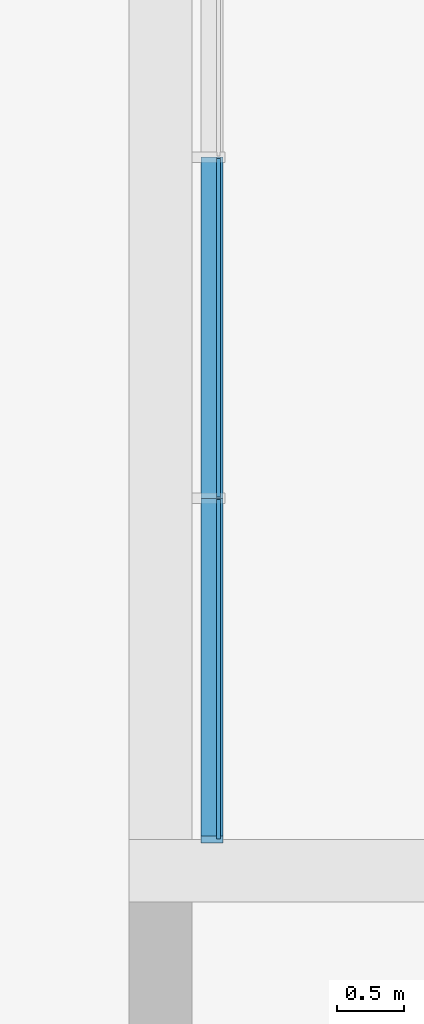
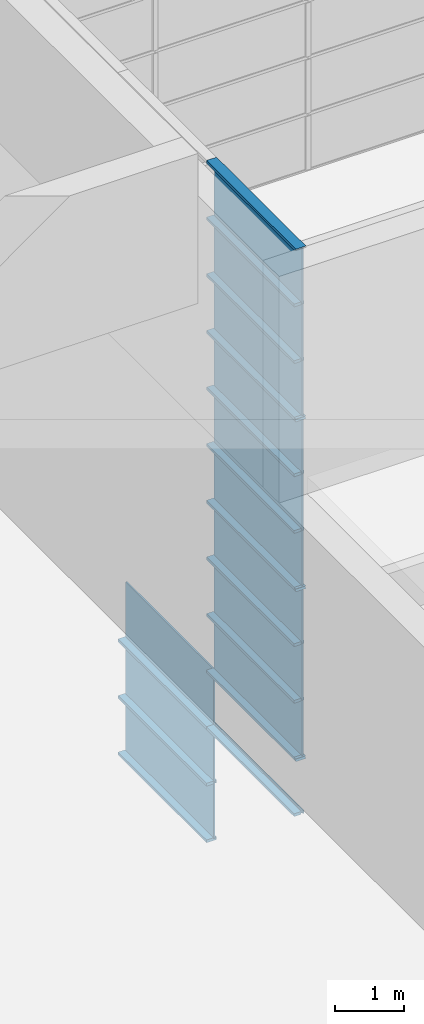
# One storey, part 24 of 105: 29 building element parts, 4 elements without a shape of their own.
"""IFC4 building model written with IfcOpenShell, lengths in millimetres."""

from ifc_helpers import new_model, entity, si_unit, converted_unit, derived_unit, direction, frame, origin_with_axes, place, context, subcontext, project, spatial, triangles, material, element, aggregate, save


model = new_model("IFC4")

# Units and contexts
model_context = context("Model", 3, precision=1e-05, world=origin_with_axes(), true_north=direction((0.0, 1.0)))
body_context = subcontext(model_context, "Body", "Model", "MODEL_VIEW")
ifc_project = project(units=[si_unit("LENGTHUNIT", "METRE", prefix="MILLI"), si_unit("AREAUNIT", "SQUARE_METRE"), si_unit("VOLUMEUNIT", "CUBIC_METRE"), converted_unit("PLANEANGLEUNIT", "DEGREE", entity("IfcLengthMeasure", 0.017453), si_unit("PLANEANGLEUNIT", "RADIAN"), dimensions=[0, 0, 0, 0, 0, 0, 0]), si_unit("SOLIDANGLEUNIT", "STERADIAN"), si_unit("MASSUNIT", "GRAM"), si_unit("TIMEUNIT", "SECOND"), si_unit("THERMODYNAMICTEMPERATUREUNIT", "DEGREE_CELSIUS"), si_unit("LUMINOUSINTENSITYUNIT", "LUMEN"), si_unit("POWERUNIT", "WATT"), derived_unit("THERMALTRANSMITTANCEUNIT", [(si_unit("POWERUNIT", "WATT"), 1), (si_unit("THERMODYNAMICTEMPERATUREUNIT", "KELVIN"), -1), (si_unit("AREAUNIT", "SQUARE_METRE"), -1)])], contexts=[model_context])

# Site, building, storey
site_placement = place(None, origin_with_axes())
site = spatial("IfcSite", under=ifc_project, at=site_placement, Name="Default Site", CompositionType="ELEMENT")
building_placement = place(site_placement, origin_with_axes())
building = spatial("IfcBuilding", under=site, at=building_placement, Name="Default Building", CompositionType="ELEMENT")
storey_placement = place(building_placement, origin_with_axes())
storey = spatial("IfcBuildingStorey", under=building, at=storey_placement, Name="OG - Story", CompositionType="ELEMENT", Elevation=0.0)

# Curtain wall, building element parts
curtain_wall_1_placement = place(storey_placement, origin_with_axes())
curtain_wall_1 = element("IfcCurtainWall", 1, at=curtain_wall_1_placement, inside=storey, Name="Fassade-006", PredefinedType="NOTDEFINED")
ifc_material_1 = material(Name="Normalglas")
building_element_part_1_placement = place(curtain_wall_1_placement, frame((51421.391327, -39309.262838, 0.0), z_axis=(0.0, 0.0, 1.0), x_axis=(1.0, 0.0, 0.0)))
building_element_part_1 = element("IfcBuildingElementPart", 2, at=building_element_part_1_placement, material=ifc_material_1, Name="Normalglas", PredefinedType="NOTDEFINED", context=body_context, shape_type="Tessellation", body=[
    triangles([(-14.999, 3830.0, 995.0), (-14.999, 1290.0, 995.0), (15.0, 1290.0, 995.0), (15.0, 3830.0, 995.0), (-14.999, 3830.0, 5.0), (-14.999, 1290.0, 5.0), (15.0, 1290.0, 5.0), (15.0, 3830.0, 5.0)], [[1, 2, 3], [1, 3, 4], [1, 5, 6], [1, 6, 2], [2, 6, 7], [2, 7, 3], [4, 3, 7], [4, 7, 8], [5, 1, 4], [5, 4, 8], [6, 5, 8], [6, 8, 7]], closed=False),
])
building_element_part_2_placement = place(curtain_wall_1_placement, frame((51421.391327, -39309.262838, 0.0), z_axis=(0.0, 0.0, 1.0), x_axis=(1.0, 0.0, 0.0)))
building_element_part_2 = element("IfcBuildingElementPart", 3, at=building_element_part_2_placement, material=ifc_material_1, Name="Normalglas", PredefinedType="NOTDEFINED", context=body_context, shape_type="Tessellation", body=[
    triangles([(-14.999, 3830.0, 1995.0), (-14.999, 1290.0, 1995.0), (15.0, 1290.0, 1995.0), (15.0, 3830.0, 1995.0), (-14.999, 3830.0, 1005.0), (-14.999, 1290.0, 1005.0), (15.0, 1290.0, 1005.0), (15.0, 3830.0, 1005.0)], [[1, 2, 3], [1, 3, 4], [1, 5, 6], [1, 6, 2], [2, 6, 7], [2, 7, 3], [4, 3, 7], [4, 7, 8], [5, 1, 4], [5, 4, 8], [6, 5, 8], [6, 8, 7]], closed=False),
])
building_element_part_3_placement = place(curtain_wall_1_placement, frame((51421.391327, -39309.262838, 0.0), z_axis=(0.0, 0.0, 1.0), x_axis=(1.0, 0.0, 0.0)))
building_element_part_3 = element("IfcBuildingElementPart", 4, at=building_element_part_3_placement, material=ifc_material_1, Name="Normalglas", PredefinedType="NOTDEFINED", context=body_context, shape_type="Tessellation", body=[
    triangles([(-14.999, 3830.0, 2995.0), (-14.999, 1290.0, 2995.0), (15.0, 1290.0, 2995.0), (15.0, 3830.0, 2995.0), (-14.999, 3830.0, 2005.0), (-14.999, 1290.0, 2005.0), (15.0, 1290.0, 2005.0), (15.0, 3830.0, 2005.0)], [[1, 2, 3], [1, 3, 4], [1, 5, 6], [1, 6, 2], [2, 6, 7], [2, 7, 3], [4, 3, 7], [4, 7, 8], [5, 1, 4], [5, 4, 8], [6, 5, 8], [6, 8, 7]], closed=False),
])
ifc_material_2 = material(Name="Blech")
building_element_part_4_placement = place(curtain_wall_1_placement, frame((51421.391327, -39309.262838, 0.0), z_axis=(0.0, 0.0, 1.0), x_axis=(1.0, 0.0, 0.0)))
building_element_part_4 = element("IfcBuildingElementPart", 5, at=building_element_part_4_placement, material=ifc_material_2, Name="Blech", PredefinedType="NOTDEFINED", context=body_context, shape_type="Tessellation", body=[
    triangles([(15.0, 3840.0, 5.0), (-14.999, 3840.0, 5.0), (-132.999, 3840.0, -24.999), (35.0, 3840.0, -24.999), (35.0, 3840.0, 25.0), (15.0, 3840.0, 25.0), (-132.999, 3840.0, 25.0), (-14.999, 3840.0, 25.0), (-14.999, 1280.0, 5.0), (15.0, 1280.0, 5.0), (15.0, 1280.0, 25.0), (35.0, 1280.0, 25.0), (35.0, 1280.0, -24.999), (-132.999, 1280.0, -24.999), (-132.999, 1280.0, 25.0), (-14.999, 1280.0, 25.0)], [[1, 2, 3], [1, 3, 4], [1, 4, 5], [1, 5, 6], [7, 3, 2], [7, 2, 8], [1, 2, 9], [1, 9, 10], [11, 6, 1], [11, 1, 10], [6, 11, 12], [6, 12, 5], [13, 4, 5], [13, 5, 12], [14, 3, 4], [14, 4, 13], [15, 7, 3], [15, 3, 14], [16, 8, 7], [16, 7, 15], [2, 8, 16], [2, 16, 9], [16, 15, 9], [9, 15, 14], [9, 14, 10], [10, 14, 13], [10, 13, 12], [10, 12, 11]], closed=False),
])
building_element_part_5_placement = place(curtain_wall_1_placement, frame((51421.391327, -39309.262838, 0.0), z_axis=(0.0, 0.0, 1.0), x_axis=(1.0, 0.0, 0.0)))
building_element_part_5 = element("IfcBuildingElementPart", 6, at=building_element_part_5_placement, material=ifc_material_2, Name="Blech", PredefinedType="NOTDEFINED", context=body_context, shape_type="Tessellation", body=[
    triangles([(15.0, 3840.0, 1025.0), (35.0, 3840.0, 1025.0), (15.0, 3840.0, 1005.0), (15.0, 3840.0, 995.0), (-14.999, 3840.0, 1005.0), (-132.999, 3840.0, 1025.0), (-14.999, 3840.0, 1025.0), (35.0, 3840.0, 975.0), (15.0, 3840.0, 975.0), (-14.999, 3840.0, 995.0), (-14.999, 3840.0, 975.0), (-132.999, 3840.0, 975.0), (-14.999, 1280.0, 995.0), (-14.999, 1280.0, 975.0), (-132.999, 1280.0, 975.0), (-132.999, 1280.0, 1025.0), (-14.999, 1280.0, 1025.0), (-14.999, 1280.0, 1005.0), (15.0, 1280.0, 1005.0), (15.0, 1280.0, 1025.0), (35.0, 1280.0, 1025.0), (35.0, 1280.0, 975.0), (15.0, 1280.0, 975.0), (15.0, 1280.0, 995.0)], [[1, 2, 3], [3, 2, 4], [3, 4, 5], [5, 4, 6], [5, 6, 7], [8, 9, 4], [8, 4, 2], [6, 4, 10], [6, 10, 11], [6, 11, 12], [11, 10, 13], [11, 13, 14], [11, 14, 15], [11, 15, 12], [6, 12, 15], [6, 15, 16], [7, 6, 16], [7, 16, 17], [7, 17, 18], [7, 18, 5], [5, 18, 19], [5, 19, 3], [1, 3, 19], [1, 19, 20], [20, 21, 2], [20, 2, 1], [8, 2, 21], [8, 21, 22], [23, 9, 8], [23, 8, 22], [4, 9, 23], [4, 23, 24], [10, 4, 24], [10, 24, 13], [17, 16, 18], [18, 16, 13], [18, 13, 19], [19, 13, 24], [19, 24, 21], [21, 24, 23], [21, 23, 22], [15, 14, 13], [15, 13, 16], [19, 21, 20]], closed=False),
])
building_element_part_6_placement = place(curtain_wall_1_placement, frame((51421.391327, -39309.262838, 0.0), z_axis=(0.0, 0.0, 1.0), x_axis=(1.0, 0.0, 0.0)))
building_element_part_6 = element("IfcBuildingElementPart", 7, at=building_element_part_6_placement, material=ifc_material_2, Name="Blech", PredefinedType="NOTDEFINED", context=body_context, shape_type="Tessellation", body=[
    triangles([(15.0, 1280.0, 2025.0), (35.0, 1280.0, 2025.0), (15.0, 1280.0, 2005.0), (15.0, 1280.0, 1995.0), (-14.999, 1280.0, 2005.0), (-132.999, 1280.0, 2025.0), (-14.999, 1280.0, 2025.0), (35.0, 1280.0, 1975.0), (15.0, 1280.0, 1975.0), (-14.999, 1280.0, 1995.0), (-14.999, 1280.0, 1975.0), (-132.999, 1280.0, 1975.0), (-14.999, -1254.999, 1995.0), (-14.999, -1254.999, 1975.0), (-132.999, -1254.999, 1975.0), (-132.999, -1254.999, 2025.0), (-14.999, -1254.999, 2025.0), (-14.999, -1254.999, 2005.0), (15.0, -1254.999, 2005.0), (15.0, -1254.999, 2025.0), (35.0, -1254.999, 2025.0), (35.0, -1254.999, 1975.0), (15.0, -1254.999, 1975.0), (15.0, -1254.999, 1995.0)], [[1, 2, 3], [3, 2, 4], [3, 4, 5], [5, 4, 6], [5, 6, 7], [8, 9, 4], [8, 4, 2], [6, 4, 10], [6, 10, 11], [6, 11, 12], [11, 10, 13], [11, 13, 14], [11, 14, 15], [11, 15, 12], [12, 15, 16], [12, 16, 6], [7, 6, 16], [7, 16, 17], [7, 17, 18], [7, 18, 5], [5, 18, 19], [5, 19, 3], [1, 3, 19], [1, 19, 20], [20, 21, 2], [20, 2, 1], [2, 21, 22], [2, 22, 8], [23, 9, 8], [23, 8, 22], [4, 9, 23], [4, 23, 24], [10, 4, 24], [10, 24, 13], [17, 16, 18], [18, 16, 13], [18, 13, 19], [19, 13, 24], [19, 24, 21], [21, 24, 23], [21, 23, 22], [15, 14, 13], [15, 13, 16], [19, 21, 20]], closed=False),
])
building_element_part_7_placement = place(curtain_wall_1_placement, frame((51421.391327, -39309.262838, 0.0), z_axis=(0.0, 0.0, 1.0), x_axis=(1.0, 0.0, 0.0)))
building_element_part_7 = element("IfcBuildingElementPart", 8, at=building_element_part_7_placement, material=ifc_material_2, Name="Blech", PredefinedType="NOTDEFINED", context=body_context, shape_type="Tessellation", body=[
    triangles([(15.0, 1280.0, 2995.0), (-14.999, 1280.0, 2995.0), (-132.999, 1280.0, 3025.0), (35.0, 1280.0, 3025.0), (35.0, 1280.0, 2975.0), (15.0, 1280.0, 2975.0), (-14.999, 1280.0, 2975.0), (-132.999, 1280.0, 2975.0), (-14.999, -1274.999, 2995.0), (-14.999, -1254.999, 2975.0), (-132.999, -1254.999, 2975.0), (-132.999, -1304.999, 3025.0), (35.0, -1304.999, 3025.0), (35.0, -1254.999, 2975.0), (15.0, -1254.999, 2975.0), (15.0, -1274.999, 2995.0)], [[1, 2, 3], [1, 3, 4], [1, 4, 5], [1, 5, 6], [7, 8, 3], [7, 3, 2], [2, 9, 10], [2, 10, 7], [10, 11, 8], [10, 8, 7], [8, 11, 12], [8, 12, 3], [3, 12, 13], [3, 13, 4], [4, 13, 14], [4, 14, 5], [6, 5, 14], [6, 14, 15], [15, 16, 1], [15, 1, 6], [1, 16, 9], [1, 9, 2], [16, 9, 12], [16, 12, 13], [16, 13, 14], [16, 14, 15], [10, 11, 12], [10, 12, 9]], closed=False),
])
building_element_part_8_placement = place(curtain_wall_1_placement, frame((51421.391327, -39309.262838, 0.0), z_axis=(0.0, 0.0, 1.0), x_axis=(1.0, 0.0, 0.0)))
building_element_part_8 = element("IfcBuildingElementPart", 9, at=building_element_part_8_placement, material=ifc_material_2, Name="Blech", PredefinedType="NOTDEFINED", context=body_context, shape_type="Tessellation", body=[
    triangles([(15.0, 3840.0, 2025.0), (35.0, 3840.0, 2025.0), (15.0, 3840.0, 2005.0), (15.0, 3840.0, 1995.0), (-14.999, 3840.0, 2005.0), (-132.999, 3840.0, 2025.0), (-14.999, 3840.0, 2025.0), (35.0, 3840.0, 1975.0), (15.0, 3840.0, 1975.0), (-14.999, 3840.0, 1995.0), (-14.999, 3840.0, 1975.0), (-132.999, 3840.0, 1975.0), (-14.999, 1280.0, 1995.0), (-14.999, 1280.0, 1975.0), (-132.999, 1280.0, 1975.0), (-132.999, 1280.0, 2025.0), (-14.999, 1280.0, 2025.0), (-14.999, 1280.0, 2005.0), (15.0, 1280.0, 2005.0), (15.0, 1280.0, 2025.0), (35.0, 1280.0, 2025.0), (35.0, 1280.0, 1975.0), (15.0, 1280.0, 1975.0), (15.0, 1280.0, 1995.0)], [[1, 2, 3], [3, 2, 4], [3, 4, 5], [5, 4, 6], [5, 6, 7], [8, 9, 4], [8, 4, 2], [6, 4, 10], [6, 10, 11], [6, 11, 12], [11, 10, 13], [11, 13, 14], [11, 14, 15], [11, 15, 12], [6, 12, 15], [6, 15, 16], [7, 6, 16], [7, 16, 17], [7, 17, 18], [7, 18, 5], [5, 18, 19], [5, 19, 3], [1, 3, 19], [1, 19, 20], [20, 21, 2], [20, 2, 1], [8, 2, 21], [8, 21, 22], [23, 9, 8], [23, 8, 22], [4, 9, 23], [4, 23, 24], [10, 4, 24], [10, 24, 13], [17, 16, 18], [18, 16, 13], [18, 13, 19], [19, 13, 24], [19, 24, 21], [21, 24, 23], [21, 23, 22], [15, 14, 13], [15, 13, 16], [19, 21, 20]], closed=False),
])
aggregate(curtain_wall_1, [building_element_part_1, building_element_part_2, building_element_part_3, building_element_part_4, building_element_part_5, building_element_part_6, building_element_part_7, building_element_part_8])

curtain_wall_2_placement = place(storey_placement, origin_with_axes())
curtain_wall_2 = element("IfcCurtainWall", 10, at=curtain_wall_2_placement, inside=storey, Name="Fassade-006", PredefinedType="NOTDEFINED")
building_element_part_9_placement = place(curtain_wall_2_placement, frame((51421.391327, -39309.262838, 3000.0), z_axis=(0.0, 0.0, 1.0), x_axis=(1.0, 0.0, 0.0)))
building_element_part_9 = element("IfcBuildingElementPart", 11, at=building_element_part_9_placement, material=ifc_material_1, Name="Normalglas", PredefinedType="NOTDEFINED", context=body_context, shape_type="Tessellation", body=[
    triangles([(-14.999, 1270.0, 995.0), (-14.999, -1274.999, 995.0), (15.0, -1274.999, 995.0), (15.0, 1270.0, 995.0), (-14.999, 1270.0, 5.0), (-14.999, -1274.999, 5.0), (15.0, -1274.999, 5.0), (15.0, 1270.0, 5.0)], [[1, 2, 3], [1, 3, 4], [1, 5, 6], [1, 6, 2], [2, 6, 7], [2, 7, 3], [4, 3, 7], [4, 7, 8], [5, 1, 4], [5, 4, 8], [6, 5, 8], [6, 8, 7]], closed=False),
])
building_element_part_10_placement = place(curtain_wall_2_placement, frame((51421.391327, -39309.262838, 3000.0), z_axis=(0.0, 0.0, 1.0), x_axis=(1.0, 0.0, 0.0)))
building_element_part_10 = element("IfcBuildingElementPart", 12, at=building_element_part_10_placement, material=ifc_material_1, Name="Normalglas", PredefinedType="NOTDEFINED", context=body_context, shape_type="Tessellation", body=[
    triangles([(-14.999, 1270.0, 1995.0), (-14.999, -1274.999, 1995.0), (15.0, -1274.999, 1995.0), (15.0, 1270.0, 1995.0), (-14.999, 1270.0, 1005.0), (-14.999, -1274.999, 1005.0), (15.0, -1274.999, 1005.0), (15.0, 1270.0, 1005.0)], [[1, 2, 3], [1, 3, 4], [1, 5, 6], [1, 6, 2], [2, 6, 7], [2, 7, 3], [4, 3, 7], [4, 7, 8], [5, 1, 4], [5, 4, 8], [6, 5, 8], [6, 8, 7]], closed=False),
])
building_element_part_11_placement = place(curtain_wall_2_placement, frame((51421.391327, -39309.262838, 3000.0), z_axis=(0.0, 0.0, 1.0), x_axis=(1.0, 0.0, 0.0)))
building_element_part_11 = element("IfcBuildingElementPart", 13, at=building_element_part_11_placement, material=ifc_material_1, Name="Normalglas", PredefinedType="NOTDEFINED", context=body_context, shape_type="Tessellation", body=[
    triangles([(-14.999, 1270.0, 2995.0), (-14.999, -1274.999, 2995.0), (15.0, -1274.999, 2995.0), (15.0, 1270.0, 2995.0), (-14.999, 1270.0, 2005.0), (-14.999, -1274.999, 2005.0), (15.0, -1274.999, 2005.0), (15.0, 1270.0, 2005.0)], [[1, 2, 3], [1, 3, 4], [1, 5, 6], [1, 6, 2], [2, 6, 7], [2, 7, 3], [4, 3, 7], [4, 7, 8], [5, 1, 4], [5, 4, 8], [6, 5, 8], [6, 8, 7]], closed=False),
])
building_element_part_12_placement = place(curtain_wall_2_placement, frame((51421.391327, -39309.262838, 3000.0), z_axis=(0.0, 0.0, 1.0), x_axis=(1.0, 0.0, 0.0)))
building_element_part_12 = element("IfcBuildingElementPart", 14, at=building_element_part_12_placement, material=ifc_material_2, Name="Blech", PredefinedType="NOTDEFINED", context=body_context, shape_type="Tessellation", body=[
    triangles([(15.0, 1280.0, 5.0), (-14.999, 1280.0, 5.0), (-132.999, 1280.0, -24.999), (35.0, 1280.0, -24.999), (35.0, 1280.0, 25.0), (15.0, 1280.0, 25.0), (-132.999, 1280.0, 25.0), (-14.999, 1280.0, 25.0), (-14.999, -1274.999, 5.0), (15.0, -1274.999, 5.0), (15.0, -1254.999, 25.0), (35.0, -1254.999, 25.0), (35.0, -1304.999, -24.999), (-132.999, -1304.999, -24.999), (-132.999, -1254.999, 25.0), (-14.999, -1254.999, 25.0)], [[1, 2, 3], [1, 3, 4], [1, 4, 5], [1, 5, 6], [7, 3, 2], [7, 2, 8], [1, 2, 9], [1, 9, 10], [11, 6, 1], [11, 1, 10], [6, 11, 12], [6, 12, 5], [4, 5, 12], [4, 12, 13], [3, 4, 13], [3, 13, 14], [7, 3, 14], [7, 14, 15], [16, 8, 7], [16, 7, 15], [2, 8, 16], [2, 16, 9], [16, 15, 9], [9, 15, 14], [9, 14, 10], [10, 14, 13], [10, 13, 12], [10, 12, 11]], closed=False),
])
building_element_part_13_placement = place(curtain_wall_2_placement, frame((51421.391327, -39309.262838, 3000.0), z_axis=(0.0, 0.0, 1.0), x_axis=(1.0, 0.0, 0.0)))
building_element_part_13 = element("IfcBuildingElementPart", 15, at=building_element_part_13_placement, material=ifc_material_2, Name="Blech", PredefinedType="NOTDEFINED", context=body_context, shape_type="Tessellation", body=[
    triangles([(15.0, 1280.0, 1025.0), (35.0, 1280.0, 1025.0), (15.0, 1280.0, 1005.0), (15.0, 1280.0, 995.0), (-14.999, 1280.0, 1005.0), (-132.999, 1280.0, 1025.0), (-14.999, 1280.0, 1025.0), (35.0, 1280.0, 975.0), (15.0, 1280.0, 975.0), (-14.999, 1280.0, 995.0), (-14.999, 1280.0, 975.0), (-132.999, 1280.0, 975.0), (-14.999, -1254.999, 995.0), (-14.999, -1254.999, 975.0), (-132.999, -1254.999, 975.0), (-132.999, -1254.999, 1025.0), (-14.999, -1254.999, 1025.0), (-14.999, -1254.999, 1005.0), (15.0, -1254.999, 1005.0), (15.0, -1254.999, 1025.0), (35.0, -1254.999, 1025.0), (35.0, -1254.999, 975.0), (15.0, -1254.999, 975.0), (15.0, -1254.999, 995.0)], [[1, 2, 3], [3, 2, 4], [3, 4, 5], [5, 4, 6], [5, 6, 7], [8, 9, 4], [8, 4, 2], [6, 4, 10], [6, 10, 11], [6, 11, 12], [11, 10, 13], [11, 13, 14], [11, 14, 15], [11, 15, 12], [12, 15, 16], [12, 16, 6], [7, 6, 16], [7, 16, 17], [7, 17, 18], [7, 18, 5], [5, 18, 19], [5, 19, 3], [1, 3, 19], [1, 19, 20], [20, 21, 2], [20, 2, 1], [2, 21, 22], [2, 22, 8], [23, 9, 8], [23, 8, 22], [4, 9, 23], [4, 23, 24], [10, 4, 24], [10, 24, 13], [17, 16, 18], [18, 16, 13], [18, 13, 19], [19, 13, 24], [19, 24, 21], [21, 24, 23], [21, 23, 22], [15, 14, 13], [15, 13, 16], [19, 21, 20]], closed=False),
])
building_element_part_14_placement = place(curtain_wall_2_placement, frame((51421.391327, -39309.262838, 3000.0), z_axis=(0.0, 0.0, 1.0), x_axis=(1.0, 0.0, 0.0)))
building_element_part_14 = element("IfcBuildingElementPart", 16, at=building_element_part_14_placement, material=ifc_material_2, Name="Blech", PredefinedType="NOTDEFINED", context=body_context, shape_type="Tessellation", body=[
    triangles([(15.0, 1280.0, 2025.0), (35.0, 1280.0, 2025.0), (15.0, 1280.0, 2005.0), (15.0, 1280.0, 1995.0), (-14.999, 1280.0, 2005.0), (-132.999, 1280.0, 2025.0), (-14.999, 1280.0, 2025.0), (35.0, 1280.0, 1975.0), (15.0, 1280.0, 1975.0), (-14.999, 1280.0, 1995.0), (-14.999, 1280.0, 1975.0), (-132.999, 1280.0, 1975.0), (-14.999, -1254.999, 1995.0), (-14.999, -1254.999, 1975.0), (-132.999, -1254.999, 1975.0), (-132.999, -1254.999, 2025.0), (-14.999, -1254.999, 2025.0), (-14.999, -1254.999, 2005.0), (15.0, -1254.999, 2005.0), (15.0, -1254.999, 2025.0), (35.0, -1254.999, 2025.0), (35.0, -1254.999, 1975.0), (15.0, -1254.999, 1975.0), (15.0, -1254.999, 1995.0)], [[1, 2, 3], [3, 2, 4], [3, 4, 5], [5, 4, 6], [5, 6, 7], [8, 9, 4], [8, 4, 2], [6, 4, 10], [6, 10, 11], [6, 11, 12], [11, 10, 13], [11, 13, 14], [11, 14, 15], [11, 15, 12], [12, 15, 16], [12, 16, 6], [7, 6, 16], [7, 16, 17], [7, 17, 18], [7, 18, 5], [5, 18, 19], [5, 19, 3], [1, 3, 19], [1, 19, 20], [20, 21, 2], [20, 2, 1], [2, 21, 22], [2, 22, 8], [23, 9, 8], [23, 8, 22], [4, 9, 23], [4, 23, 24], [10, 4, 24], [10, 24, 13], [17, 16, 18], [18, 16, 13], [18, 13, 19], [19, 13, 24], [19, 24, 21], [21, 24, 23], [21, 23, 22], [15, 14, 13], [15, 13, 16], [19, 21, 20]], closed=False),
])
building_element_part_15_placement = place(curtain_wall_2_placement, frame((51421.391327, -39309.262838, 3000.0), z_axis=(0.0, 0.0, 1.0), x_axis=(1.0, 0.0, 0.0)))
building_element_part_15 = element("IfcBuildingElementPart", 17, at=building_element_part_15_placement, material=ifc_material_2, Name="Blech", PredefinedType="NOTDEFINED", context=body_context, shape_type="Tessellation", body=[
    triangles([(15.0, 1280.0, 2995.0), (-14.999, 1280.0, 2995.0), (-132.999, 1280.0, 3025.0), (35.0, 1280.0, 3025.0), (35.0, 1280.0, 2975.0), (15.0, 1280.0, 2975.0), (-14.999, 1280.0, 2975.0), (-132.999, 1280.0, 2975.0), (-14.999, -1274.999, 2995.0), (-14.999, -1254.999, 2975.0), (-132.999, -1254.999, 2975.0), (-132.999, -1304.999, 3025.0), (35.0, -1304.999, 3025.0), (35.0, -1254.999, 2975.0), (15.0, -1254.999, 2975.0), (15.0, -1274.999, 2995.0)], [[1, 2, 3], [1, 3, 4], [1, 4, 5], [1, 5, 6], [7, 8, 3], [7, 3, 2], [2, 9, 10], [2, 10, 7], [10, 11, 8], [10, 8, 7], [8, 11, 12], [8, 12, 3], [3, 12, 13], [3, 13, 4], [4, 13, 14], [4, 14, 5], [6, 5, 14], [6, 14, 15], [15, 16, 1], [15, 1, 6], [1, 16, 9], [1, 9, 2], [16, 9, 12], [16, 12, 13], [16, 13, 14], [16, 14, 15], [10, 11, 12], [10, 12, 9]], closed=False),
])
aggregate(curtain_wall_2, [building_element_part_9, building_element_part_10, building_element_part_11, building_element_part_12, building_element_part_13, building_element_part_14, building_element_part_15])

curtain_wall_3_placement = place(storey_placement, origin_with_axes())
curtain_wall_3 = element("IfcCurtainWall", 18, at=curtain_wall_3_placement, inside=storey, Name="Fassade-006", PredefinedType="NOTDEFINED")
building_element_part_16_placement = place(curtain_wall_3_placement, frame((51421.391327, -39309.262838, 6000.0), z_axis=(0.0, 0.0, 1.0), x_axis=(1.0, 0.0, 0.0)))
building_element_part_16 = element("IfcBuildingElementPart", 19, at=building_element_part_16_placement, material=ifc_material_1, Name="Normalglas", PredefinedType="NOTDEFINED", context=body_context, shape_type="Tessellation", body=[
    triangles([(-14.999, 1270.0, 995.0), (-14.999, -1274.999, 995.0), (15.0, -1274.999, 995.0), (15.0, 1270.0, 995.0), (-14.999, 1270.0, 5.0), (-14.999, -1274.999, 5.0), (15.0, -1274.999, 5.0), (15.0, 1270.0, 5.0)], [[1, 2, 3], [1, 3, 4], [1, 5, 6], [1, 6, 2], [2, 6, 7], [2, 7, 3], [4, 3, 7], [4, 7, 8], [5, 1, 4], [5, 4, 8], [6, 5, 8], [6, 8, 7]], closed=False),
])
building_element_part_17_placement = place(curtain_wall_3_placement, frame((51421.391327, -39309.262838, 6000.0), z_axis=(0.0, 0.0, 1.0), x_axis=(1.0, 0.0, 0.0)))
building_element_part_17 = element("IfcBuildingElementPart", 20, at=building_element_part_17_placement, material=ifc_material_1, Name="Normalglas", PredefinedType="NOTDEFINED", context=body_context, shape_type="Tessellation", body=[
    triangles([(-14.999, 1270.0, 1995.0), (-14.999, -1274.999, 1995.0), (15.0, -1274.999, 1995.0), (15.0, 1270.0, 1995.0), (-14.999, 1270.0, 1005.0), (-14.999, -1274.999, 1005.0), (15.0, -1274.999, 1005.0), (15.0, 1270.0, 1005.0)], [[1, 2, 3], [1, 3, 4], [1, 5, 6], [1, 6, 2], [2, 6, 7], [2, 7, 3], [4, 3, 7], [4, 7, 8], [5, 1, 4], [5, 4, 8], [6, 5, 8], [6, 8, 7]], closed=False),
])
building_element_part_18_placement = place(curtain_wall_3_placement, frame((51421.391327, -39309.262838, 6000.0), z_axis=(0.0, 0.0, 1.0), x_axis=(1.0, 0.0, 0.0)))
building_element_part_18 = element("IfcBuildingElementPart", 21, at=building_element_part_18_placement, material=ifc_material_1, Name="Normalglas", PredefinedType="NOTDEFINED", context=body_context, shape_type="Tessellation", body=[
    triangles([(-14.999, 1270.0, 2995.0), (-14.999, -1274.999, 2995.0), (15.0, -1274.999, 2995.0), (15.0, 1270.0, 2995.0), (-14.999, 1270.0, 2005.0), (-14.999, -1274.999, 2005.0), (15.0, -1274.999, 2005.0), (15.0, 1270.0, 2005.0)], [[1, 2, 3], [1, 3, 4], [1, 5, 6], [1, 6, 2], [2, 6, 7], [2, 7, 3], [4, 3, 7], [4, 7, 8], [5, 1, 4], [5, 4, 8], [6, 5, 8], [6, 8, 7]], closed=False),
])
building_element_part_19_placement = place(curtain_wall_3_placement, frame((51421.391327, -39309.262838, 6000.0), z_axis=(0.0, 0.0, 1.0), x_axis=(1.0, 0.0, 0.0)))
building_element_part_19 = element("IfcBuildingElementPart", 22, at=building_element_part_19_placement, material=ifc_material_2, Name="Blech", PredefinedType="NOTDEFINED", context=body_context, shape_type="Tessellation", body=[
    triangles([(15.0, 1280.0, 5.0), (-14.999, 1280.0, 5.0), (-132.999, 1280.0, -24.999), (35.0, 1280.0, -24.999), (35.0, 1280.0, 25.0), (15.0, 1280.0, 25.0), (-132.999, 1280.0, 25.0), (-14.999, 1280.0, 25.0), (-14.999, -1274.999, 5.0), (15.0, -1274.999, 5.0), (15.0, -1254.999, 25.0), (35.0, -1254.999, 25.0), (35.0, -1304.999, -24.999), (-132.999, -1304.999, -24.999), (-132.999, -1254.999, 25.0), (-14.999, -1254.999, 25.0)], [[1, 2, 3], [1, 3, 4], [1, 4, 5], [1, 5, 6], [7, 3, 2], [7, 2, 8], [1, 2, 9], [1, 9, 10], [11, 6, 1], [11, 1, 10], [6, 11, 12], [6, 12, 5], [4, 5, 12], [4, 12, 13], [3, 4, 13], [3, 13, 14], [7, 3, 14], [7, 14, 15], [16, 8, 7], [16, 7, 15], [2, 8, 16], [2, 16, 9], [16, 15, 9], [9, 15, 14], [9, 14, 10], [10, 14, 13], [10, 13, 12], [10, 12, 11]], closed=False),
])
building_element_part_20_placement = place(curtain_wall_3_placement, frame((51421.391327, -39309.262838, 6000.0), z_axis=(0.0, 0.0, 1.0), x_axis=(1.0, 0.0, 0.0)))
building_element_part_20 = element("IfcBuildingElementPart", 23, at=building_element_part_20_placement, material=ifc_material_2, Name="Blech", PredefinedType="NOTDEFINED", context=body_context, shape_type="Tessellation", body=[
    triangles([(15.0, 1280.0, 1025.0), (35.0, 1280.0, 1025.0), (15.0, 1280.0, 1005.0), (15.0, 1280.0, 995.0), (-14.999, 1280.0, 1005.0), (-132.999, 1280.0, 1025.0), (-14.999, 1280.0, 1025.0), (35.0, 1280.0, 975.0), (15.0, 1280.0, 975.0), (-14.999, 1280.0, 995.0), (-14.999, 1280.0, 975.0), (-132.999, 1280.0, 975.0), (-14.999, -1254.999, 995.0), (-14.999, -1254.999, 975.0), (-132.999, -1254.999, 975.0), (-132.999, -1254.999, 1025.0), (-14.999, -1254.999, 1025.0), (-14.999, -1254.999, 1005.0), (15.0, -1254.999, 1005.0), (15.0, -1254.999, 1025.0), (35.0, -1254.999, 1025.0), (35.0, -1254.999, 975.0), (15.0, -1254.999, 975.0), (15.0, -1254.999, 995.0)], [[1, 2, 3], [3, 2, 4], [3, 4, 5], [5, 4, 6], [5, 6, 7], [8, 9, 4], [8, 4, 2], [6, 4, 10], [6, 10, 11], [6, 11, 12], [11, 10, 13], [11, 13, 14], [11, 14, 15], [11, 15, 12], [12, 15, 16], [12, 16, 6], [7, 6, 16], [7, 16, 17], [7, 17, 18], [7, 18, 5], [5, 18, 19], [5, 19, 3], [1, 3, 19], [1, 19, 20], [20, 21, 2], [20, 2, 1], [2, 21, 22], [2, 22, 8], [23, 9, 8], [23, 8, 22], [4, 9, 23], [4, 23, 24], [10, 4, 24], [10, 24, 13], [17, 16, 18], [18, 16, 13], [18, 13, 19], [19, 13, 24], [19, 24, 21], [21, 24, 23], [21, 23, 22], [15, 14, 13], [15, 13, 16], [19, 21, 20]], closed=False),
])
building_element_part_21_placement = place(curtain_wall_3_placement, frame((51421.391327, -39309.262838, 6000.0), z_axis=(0.0, 0.0, 1.0), x_axis=(1.0, 0.0, 0.0)))
building_element_part_21 = element("IfcBuildingElementPart", 24, at=building_element_part_21_placement, material=ifc_material_2, Name="Blech", PredefinedType="NOTDEFINED", context=body_context, shape_type="Tessellation", body=[
    triangles([(15.0, 1280.0, 2025.0), (35.0, 1280.0, 2025.0), (15.0, 1280.0, 2005.0), (15.0, 1280.0, 1995.0), (-14.999, 1280.0, 2005.0), (-132.999, 1280.0, 2025.0), (-14.999, 1280.0, 2025.0), (35.0, 1280.0, 1975.0), (15.0, 1280.0, 1975.0), (-14.999, 1280.0, 1995.0), (-14.999, 1280.0, 1975.0), (-132.999, 1280.0, 1975.0), (-14.999, -1254.999, 1995.0), (-14.999, -1254.999, 1975.0), (-132.999, -1254.999, 1975.0), (-132.999, -1254.999, 2025.0), (-14.999, -1254.999, 2025.0), (-14.999, -1254.999, 2005.0), (15.0, -1254.999, 2005.0), (15.0, -1254.999, 2025.0), (35.0, -1254.999, 2025.0), (35.0, -1254.999, 1975.0), (15.0, -1254.999, 1975.0), (15.0, -1254.999, 1995.0)], [[1, 2, 3], [3, 2, 4], [3, 4, 5], [5, 4, 6], [5, 6, 7], [8, 9, 4], [8, 4, 2], [6, 4, 10], [6, 10, 11], [6, 11, 12], [11, 10, 13], [11, 13, 14], [11, 14, 15], [11, 15, 12], [12, 15, 16], [12, 16, 6], [7, 6, 16], [7, 16, 17], [7, 17, 18], [7, 18, 5], [5, 18, 19], [5, 19, 3], [1, 3, 19], [1, 19, 20], [20, 21, 2], [20, 2, 1], [2, 21, 22], [2, 22, 8], [23, 9, 8], [23, 8, 22], [4, 9, 23], [4, 23, 24], [10, 4, 24], [10, 24, 13], [17, 16, 18], [18, 16, 13], [18, 13, 19], [19, 13, 24], [19, 24, 21], [21, 24, 23], [21, 23, 22], [15, 14, 13], [15, 13, 16], [19, 21, 20]], closed=False),
])
building_element_part_22_placement = place(curtain_wall_3_placement, frame((51421.391327, -39309.262838, 6000.0), z_axis=(0.0, 0.0, 1.0), x_axis=(1.0, 0.0, 0.0)))
building_element_part_22 = element("IfcBuildingElementPart", 25, at=building_element_part_22_placement, material=ifc_material_2, Name="Blech", PredefinedType="NOTDEFINED", context=body_context, shape_type="Tessellation", body=[
    triangles([(15.0, 1280.0, 2995.0), (-14.999, 1280.0, 2995.0), (-132.999, 1280.0, 3025.0), (35.0, 1280.0, 3025.0), (35.0, 1280.0, 2975.0), (15.0, 1280.0, 2975.0), (-14.999, 1280.0, 2975.0), (-132.999, 1280.0, 2975.0), (-14.999, -1274.999, 2995.0), (-14.999, -1254.999, 2975.0), (-132.999, -1254.999, 2975.0), (-132.999, -1304.999, 3025.0), (35.0, -1304.999, 3025.0), (35.0, -1254.999, 2975.0), (15.0, -1254.999, 2975.0), (15.0, -1274.999, 2995.0)], [[1, 2, 3], [1, 3, 4], [1, 4, 5], [1, 5, 6], [7, 8, 3], [7, 3, 2], [2, 9, 10], [2, 10, 7], [10, 11, 8], [10, 8, 7], [8, 11, 12], [8, 12, 3], [3, 12, 13], [3, 13, 4], [4, 13, 14], [4, 14, 5], [6, 5, 14], [6, 14, 15], [15, 16, 1], [15, 1, 6], [1, 16, 9], [1, 9, 2], [16, 9, 12], [16, 12, 13], [16, 13, 14], [16, 14, 15], [10, 11, 12], [10, 12, 9]], closed=False),
])
aggregate(curtain_wall_3, [building_element_part_16, building_element_part_17, building_element_part_18, building_element_part_19, building_element_part_20, building_element_part_21, building_element_part_22])

curtain_wall_4_placement = place(storey_placement, origin_with_axes())
curtain_wall_4 = element("IfcCurtainWall", 26, at=curtain_wall_4_placement, inside=storey, Name="Fassade-006", PredefinedType="NOTDEFINED")
building_element_part_23_placement = place(curtain_wall_4_placement, frame((51421.391327, -39309.262838, 9000.0), z_axis=(0.0, 0.0, 1.0), x_axis=(1.0, 0.0, 0.0)))
building_element_part_23 = element("IfcBuildingElementPart", 27, at=building_element_part_23_placement, material=ifc_material_1, Name="Normalglas", PredefinedType="NOTDEFINED", context=body_context, shape_type="Tessellation", body=[
    triangles([(-14.999, 1270.0, 995.0), (-14.999, -1274.999, 995.0), (15.0, -1274.999, 995.0), (15.0, 1270.0, 995.0), (-14.999, 1270.0, 5.0), (-14.999, -1274.999, 5.0), (15.0, -1274.999, 5.0), (15.0, 1270.0, 5.0)], [[1, 2, 3], [1, 3, 4], [1, 5, 6], [1, 6, 2], [2, 6, 7], [2, 7, 3], [4, 3, 7], [4, 7, 8], [5, 1, 4], [5, 4, 8], [6, 5, 8], [6, 8, 7]], closed=False),
])
building_element_part_24_placement = place(curtain_wall_4_placement, frame((51421.391327, -39309.262838, 9000.0), z_axis=(0.0, 0.0, 1.0), x_axis=(1.0, 0.0, 0.0)))
building_element_part_24 = element("IfcBuildingElementPart", 28, at=building_element_part_24_placement, material=ifc_material_1, Name="Normalglas", PredefinedType="NOTDEFINED", context=body_context, shape_type="Tessellation", body=[
    triangles([(-14.999, 1270.0, 1995.0), (-14.999, -1274.999, 1995.0), (15.0, -1274.999, 1995.0), (15.0, 1270.0, 1995.0), (-14.999, 1270.0, 1005.0), (-14.999, -1274.999, 1005.0), (15.0, -1274.999, 1005.0), (15.0, 1270.0, 1005.0)], [[1, 2, 3], [1, 3, 4], [1, 5, 6], [1, 6, 2], [2, 6, 7], [2, 7, 3], [4, 3, 7], [4, 7, 8], [5, 1, 4], [5, 4, 8], [6, 5, 8], [6, 8, 7]], closed=False),
])
building_element_part_25_placement = place(curtain_wall_4_placement, frame((51421.391327, -39309.262838, 9000.0), z_axis=(0.0, 0.0, 1.0), x_axis=(1.0, 0.0, 0.0)))
building_element_part_25 = element("IfcBuildingElementPart", 29, at=building_element_part_25_placement, material=ifc_material_1, Name="Normalglas", PredefinedType="NOTDEFINED", context=body_context, shape_type="Tessellation", body=[
    triangles([(-14.999, 1270.0, 2995.0), (-14.999, -1274.999, 2995.0), (15.0, -1274.999, 2995.0), (15.0, 1270.0, 2995.0), (-14.999, 1270.0, 2005.0), (-14.999, -1274.999, 2005.0), (15.0, -1274.999, 2005.0), (15.0, 1270.0, 2005.0)], [[1, 2, 3], [1, 3, 4], [1, 5, 6], [1, 6, 2], [2, 6, 7], [2, 7, 3], [4, 3, 7], [4, 7, 8], [5, 1, 4], [5, 4, 8], [6, 5, 8], [6, 8, 7]], closed=False),
])
building_element_part_26_placement = place(curtain_wall_4_placement, frame((51421.391327, -39309.262838, 9000.0), z_axis=(0.0, 0.0, 1.0), x_axis=(1.0, 0.0, 0.0)))
building_element_part_26 = element("IfcBuildingElementPart", 30, at=building_element_part_26_placement, material=ifc_material_2, Name="Blech", PredefinedType="NOTDEFINED", context=body_context, shape_type="Tessellation", body=[
    triangles([(15.0, 1280.0, 5.0), (-14.999, 1280.0, 5.0), (-132.999, 1280.0, -24.999), (35.0, 1280.0, -24.999), (35.0, 1280.0, 25.0), (15.0, 1280.0, 25.0), (-132.999, 1280.0, 25.0), (-14.999, 1280.0, 25.0), (-14.999, -1274.999, 5.0), (15.0, -1274.999, 5.0), (15.0, -1254.999, 25.0), (35.0, -1254.999, 25.0), (35.0, -1304.999, -24.999), (-132.999, -1304.999, -24.999), (-132.999, -1254.999, 25.0), (-14.999, -1254.999, 25.0)], [[1, 2, 3], [1, 3, 4], [1, 4, 5], [1, 5, 6], [7, 3, 2], [7, 2, 8], [1, 2, 9], [1, 9, 10], [11, 6, 1], [11, 1, 10], [6, 11, 12], [6, 12, 5], [4, 5, 12], [4, 12, 13], [3, 4, 13], [3, 13, 14], [7, 3, 14], [7, 14, 15], [16, 8, 7], [16, 7, 15], [2, 8, 16], [2, 16, 9], [16, 15, 9], [9, 15, 14], [9, 14, 10], [10, 14, 13], [10, 13, 12], [10, 12, 11]], closed=False),
])
building_element_part_27_placement = place(curtain_wall_4_placement, frame((51421.391327, -39309.262838, 9000.0), z_axis=(0.0, 0.0, 1.0), x_axis=(1.0, 0.0, 0.0)))
building_element_part_27 = element("IfcBuildingElementPart", 31, at=building_element_part_27_placement, material=ifc_material_2, Name="Blech", PredefinedType="NOTDEFINED", context=body_context, shape_type="Tessellation", body=[
    triangles([(15.0, 1280.0, 1025.0), (35.0, 1280.0, 1025.0), (15.0, 1280.0, 1005.0), (15.0, 1280.0, 995.0), (-14.999, 1280.0, 1005.0), (-132.999, 1280.0, 1025.0), (-14.999, 1280.0, 1025.0), (35.0, 1280.0, 975.0), (15.0, 1280.0, 975.0), (-14.999, 1280.0, 995.0), (-14.999, 1280.0, 975.0), (-132.999, 1280.0, 975.0), (-14.999, -1254.999, 995.0), (-14.999, -1254.999, 975.0), (-132.999, -1254.999, 975.0), (-132.999, -1254.999, 1025.0), (-14.999, -1254.999, 1025.0), (-14.999, -1254.999, 1005.0), (15.0, -1254.999, 1005.0), (15.0, -1254.999, 1025.0), (35.0, -1254.999, 1025.0), (35.0, -1254.999, 975.0), (15.0, -1254.999, 975.0), (15.0, -1254.999, 995.0)], [[1, 2, 3], [3, 2, 4], [3, 4, 5], [5, 4, 6], [5, 6, 7], [8, 9, 4], [8, 4, 2], [6, 4, 10], [6, 10, 11], [6, 11, 12], [11, 10, 13], [11, 13, 14], [11, 14, 15], [11, 15, 12], [12, 15, 16], [12, 16, 6], [7, 6, 16], [7, 16, 17], [7, 17, 18], [7, 18, 5], [5, 18, 19], [5, 19, 3], [1, 3, 19], [1, 19, 20], [20, 21, 2], [20, 2, 1], [2, 21, 22], [2, 22, 8], [23, 9, 8], [23, 8, 22], [4, 9, 23], [4, 23, 24], [10, 4, 24], [10, 24, 13], [17, 16, 18], [18, 16, 13], [18, 13, 19], [19, 13, 24], [19, 24, 21], [21, 24, 23], [21, 23, 22], [15, 14, 13], [15, 13, 16], [19, 21, 20]], closed=False),
])
building_element_part_28_placement = place(curtain_wall_4_placement, frame((51421.391327, -39309.262838, 9000.0), z_axis=(0.0, 0.0, 1.0), x_axis=(1.0, 0.0, 0.0)))
building_element_part_28 = element("IfcBuildingElementPart", 32, at=building_element_part_28_placement, material=ifc_material_2, Name="Blech", PredefinedType="NOTDEFINED", context=body_context, shape_type="Tessellation", body=[
    triangles([(15.0, 1280.0, 2025.0), (35.0, 1280.0, 2025.0), (15.0, 1280.0, 2005.0), (15.0, 1280.0, 1995.0), (-14.999, 1280.0, 2005.0), (-132.999, 1280.0, 2025.0), (-14.999, 1280.0, 2025.0), (35.0, 1280.0, 1975.0), (15.0, 1280.0, 1975.0), (-14.999, 1280.0, 1995.0), (-14.999, 1280.0, 1975.0), (-132.999, 1280.0, 1975.0), (-14.999, -1254.999, 1995.0), (-14.999, -1254.999, 1975.0), (-132.999, -1254.999, 1975.0), (-132.999, -1254.999, 2025.0), (-14.999, -1254.999, 2025.0), (-14.999, -1254.999, 2005.0), (15.0, -1254.999, 2005.0), (15.0, -1254.999, 2025.0), (35.0, -1254.999, 2025.0), (35.0, -1254.999, 1975.0), (15.0, -1254.999, 1975.0), (15.0, -1254.999, 1995.0)], [[1, 2, 3], [3, 2, 4], [3, 4, 5], [5, 4, 6], [5, 6, 7], [8, 9, 4], [8, 4, 2], [6, 4, 10], [6, 10, 11], [6, 11, 12], [11, 10, 13], [11, 13, 14], [11, 14, 15], [11, 15, 12], [12, 15, 16], [12, 16, 6], [7, 6, 16], [7, 16, 17], [7, 17, 18], [7, 18, 5], [5, 18, 19], [5, 19, 3], [1, 3, 19], [1, 19, 20], [20, 21, 2], [20, 2, 1], [2, 21, 22], [2, 22, 8], [23, 9, 8], [23, 8, 22], [4, 9, 23], [4, 23, 24], [10, 4, 24], [10, 24, 13], [17, 16, 18], [18, 16, 13], [18, 13, 19], [19, 13, 24], [19, 24, 21], [21, 24, 23], [21, 23, 22], [15, 14, 13], [15, 13, 16], [19, 21, 20]], closed=False),
])
building_element_part_29_placement = place(curtain_wall_4_placement, frame((51421.391327, -39309.262838, 9000.0), z_axis=(0.0, 0.0, 1.0), x_axis=(1.0, 0.0, 0.0)))
building_element_part_29 = element("IfcBuildingElementPart", 33, at=building_element_part_29_placement, material=ifc_material_2, Name="Blech", PredefinedType="NOTDEFINED", context=body_context, shape_type="Tessellation", body=[
    triangles([(15.0, 1280.0, 2995.0), (-14.999, 1280.0, 2995.0), (-132.999, 1280.0, 3025.0), (35.0, 1280.0, 3025.0), (35.0, 1280.0, 2975.0), (15.0, 1280.0, 2975.0), (-14.999, 1280.0, 2975.0), (-132.999, 1280.0, 2975.0), (-14.999, -1274.999, 2995.0), (-14.999, -1254.999, 2975.0), (-132.999, -1254.999, 2975.0), (-132.999, -1304.999, 3025.0), (35.0, -1304.999, 3025.0), (35.0, -1254.999, 2975.0), (15.0, -1254.999, 2975.0), (15.0, -1274.999, 2995.0)], [[1, 2, 3], [1, 3, 4], [1, 4, 5], [1, 5, 6], [7, 8, 3], [7, 3, 2], [2, 9, 10], [2, 10, 7], [10, 11, 8], [10, 8, 7], [8, 11, 12], [8, 12, 3], [3, 12, 13], [3, 13, 4], [4, 13, 14], [4, 14, 5], [6, 5, 14], [6, 14, 15], [15, 16, 1], [15, 1, 6], [1, 16, 9], [1, 9, 2], [16, 9, 12], [16, 12, 13], [16, 13, 14], [16, 14, 15], [10, 11, 12], [10, 12, 9]], closed=False),
])
aggregate(curtain_wall_4, [building_element_part_23, building_element_part_24, building_element_part_25, building_element_part_26, building_element_part_27, building_element_part_28, building_element_part_29])

save(model, "model.ifc")
